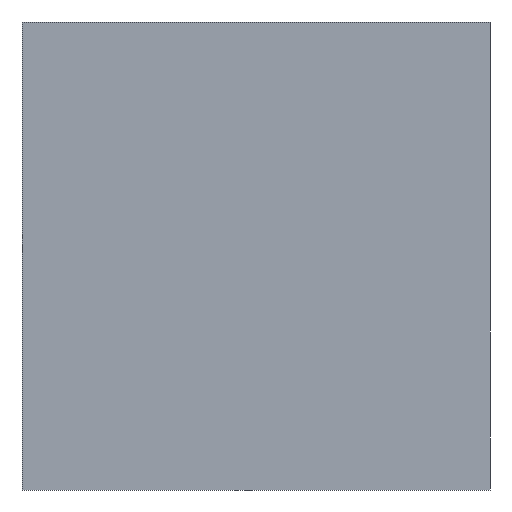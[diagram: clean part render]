
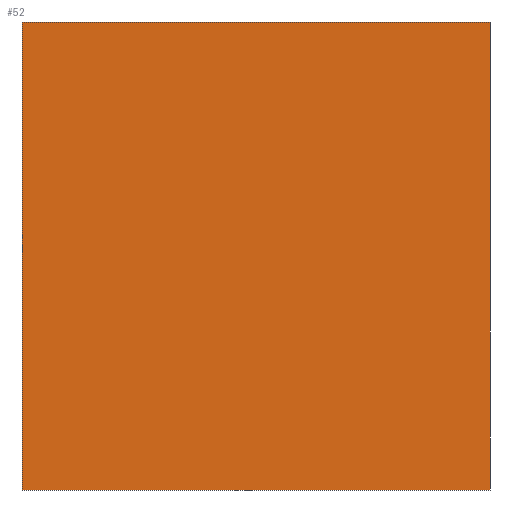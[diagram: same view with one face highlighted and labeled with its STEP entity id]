
A CAD part, front view. The second image highlights one B-rep face of the part: STEP entity #52.
In plain terms, the highlighted planar face has unit normal (0, -1, 0).
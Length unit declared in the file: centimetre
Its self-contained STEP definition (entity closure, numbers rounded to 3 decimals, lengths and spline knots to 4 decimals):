
#11 = AXIS2_PLACEMENT_3D ( 'NONE', #232, #261, #264 ) ;
#18 = EDGE_CURVE ( 'NONE', #58, #23, #225, .T. ) ;
#23 = VERTEX_POINT ( 'NONE', #53 ) ;
#26 = ORIENTED_EDGE ( 'NONE', *, *, #18, .F. ) ;
#27 = LINE ( 'NONE', #344, #372 ) ;
#35 = LINE ( 'NONE', #353, #152 ) ;
#47 = ORIENTED_EDGE ( 'NONE', *, *, #256, .F. ) ;
#52 = ADVANCED_FACE ( 'NONE', ( #170 ), #234, .F. ) ;
#53 = CARTESIAN_POINT ( 'NONE',  ( 1000., 0., 1000. ) ) ;
#56 = CARTESIAN_POINT ( 'NONE',  ( 0., 0., 1000. ) ) ;
#58 = VERTEX_POINT ( 'NONE', #56 ) ;
#64 = EDGE_CURVE ( 'NONE', #58, #215, #168, .T. ) ;
#79 = DIRECTION ( 'NONE',  ( 1., 0., 0. ) ) ;
#81 = EDGE_CURVE ( 'NONE', #215, #338, #27, .T. ) ;
#82 = DIRECTION ( 'NONE',  ( 0., 0., -1. ) ) ;
#103 = CARTESIAN_POINT ( 'NONE',  ( 1000., 0., 0. ) ) ;
#122 = CARTESIAN_POINT ( 'NONE',  ( 0., 0., 0. ) ) ;
#136 = CARTESIAN_POINT ( 'NONE',  ( 0., 0., 1000. ) ) ;
#152 = VECTOR ( 'NONE', #153, 100. ) ;
#153 = DIRECTION ( 'NONE',  ( 0., 0., -1. ) ) ;
#168 = LINE ( 'NONE', #173, #206 ) ;
#170 = FACE_OUTER_BOUND ( 'NONE', #219, .T. ) ;
#173 = CARTESIAN_POINT ( 'NONE',  ( 0., 0., 1000. ) ) ;
#198 = ORIENTED_EDGE ( 'NONE', *, *, #81, .T. ) ;
#206 = VECTOR ( 'NONE', #82, 100. ) ;
#215 = VERTEX_POINT ( 'NONE', #122 ) ;
#219 = EDGE_LOOP ( 'NONE', ( #198, #47, #26, #311 ) ) ;
#225 = LINE ( 'NONE', #136, #319 ) ;
#232 = CARTESIAN_POINT ( 'NONE',  ( 0., 0., 1000. ) ) ;
#234 = PLANE ( 'NONE',  #11 ) ;
#256 = EDGE_CURVE ( 'NONE', #23, #338, #35, .T. ) ;
#261 = DIRECTION ( 'NONE',  ( 0., 1., 0. ) ) ;
#264 = DIRECTION ( 'NONE',  ( 0., 0., 1. ) ) ;
#291 = DIRECTION ( 'NONE',  ( 1., 0., 0. ) ) ;
#311 = ORIENTED_EDGE ( 'NONE', *, *, #64, .T. ) ;
#319 = VECTOR ( 'NONE', #79, 100. ) ;
#338 = VERTEX_POINT ( 'NONE', #103 ) ;
#344 = CARTESIAN_POINT ( 'NONE',  ( 0., 0., 0. ) ) ;
#353 = CARTESIAN_POINT ( 'NONE',  ( 1000., 0., 1000. ) ) ;
#372 = VECTOR ( 'NONE', #291, 100. ) ;
